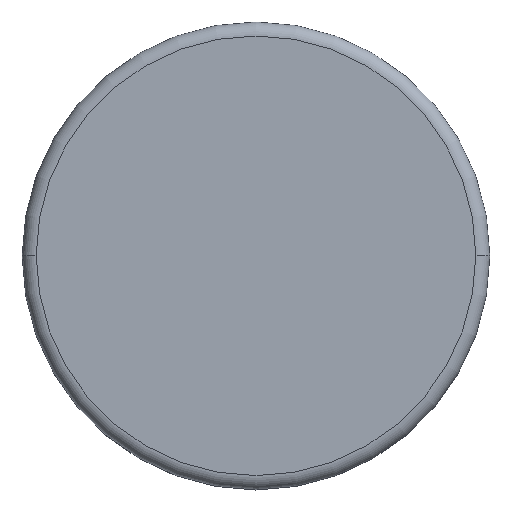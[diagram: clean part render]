
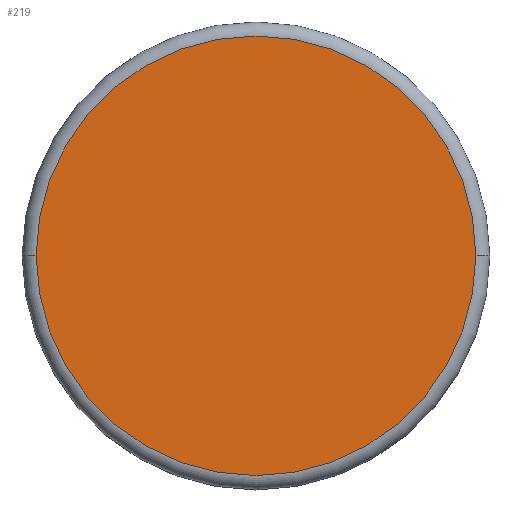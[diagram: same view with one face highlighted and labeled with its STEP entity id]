
A CAD part, top view. The second image highlights one B-rep face of the part: STEP entity #219.
In plain terms, the highlighted planar face has unit normal (0, 0, 1).
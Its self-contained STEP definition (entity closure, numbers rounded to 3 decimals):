
#18 = ORIENTED_EDGE ( 'NONE', *, *, #242, .T. ) ;
#21 = DIRECTION ( 'NONE',  ( 0., 0., 1. ) ) ;
#34 = AXIS2_PLACEMENT_3D ( 'NONE', #46, #112, #197 ) ;
#46 = CARTESIAN_POINT ( 'NONE',  ( 0., 0., 5. ) ) ;
#56 = EDGE_LOOP ( 'NONE', ( #78, #18 ) ) ;
#57 = AXIS2_PLACEMENT_3D ( 'NONE', #172, #21, #259 ) ;
#65 = CARTESIAN_POINT ( 'NONE',  ( -4.7, 0., 5. ) ) ;
#78 = ORIENTED_EDGE ( 'NONE', *, *, #192, .T. ) ;
#112 = DIRECTION ( 'NONE',  ( 0., 0., 1. ) ) ;
#134 = FACE_OUTER_BOUND ( 'NONE', #56, .T. ) ;
#150 = PLANE ( 'NONE',  #155 ) ;
#152 = CARTESIAN_POINT ( 'NONE',  ( 0., 0., 5. ) ) ;
#155 = AXIS2_PLACEMENT_3D ( 'NONE', #152, #235, #174 ) ;
#161 = VERTEX_POINT ( 'NONE', #237 ) ;
#172 = CARTESIAN_POINT ( 'NONE',  ( 0., 0., 5. ) ) ;
#174 = DIRECTION ( 'NONE',  ( 1., 0., 0. ) ) ;
#192 = EDGE_CURVE ( 'NONE', #161, #209, #217, .T. ) ;
#197 = DIRECTION ( 'NONE',  ( 1., 0., 0. ) ) ;
#209 = VERTEX_POINT ( 'NONE', #65 ) ;
#217 = CIRCLE ( 'NONE', #34, 4.7 ) ;
#219 = ADVANCED_FACE ( 'NONE', ( #134 ), #150, .T. ) ;
#235 = DIRECTION ( 'NONE',  ( 0., 0., 1. ) ) ;
#237 = CARTESIAN_POINT ( 'NONE',  ( 4.7, 0., 5. ) ) ;
#242 = EDGE_CURVE ( 'NONE', #209, #161, #277, .T. ) ;
#259 = DIRECTION ( 'NONE',  ( 1., 0., 0. ) ) ;
#277 = CIRCLE ( 'NONE', #57, 4.7 ) ;
